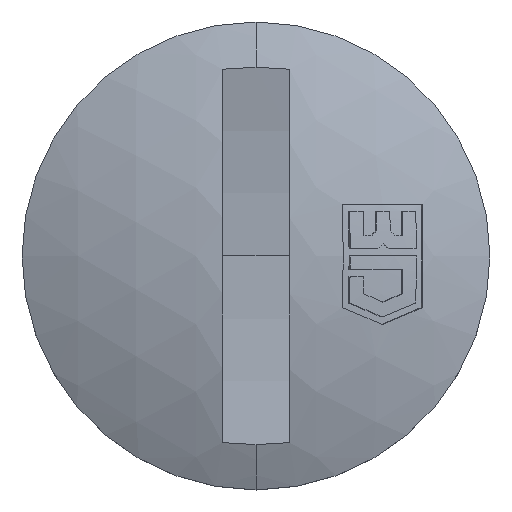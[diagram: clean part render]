
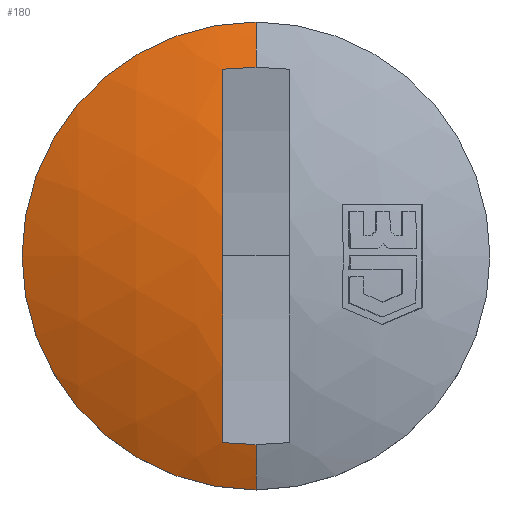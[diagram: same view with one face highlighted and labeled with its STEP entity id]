
A CAD part, top view. The second image highlights one B-rep face of the part: STEP entity #180.
In plain terms, the highlighted spherical face has radius 17 mm.
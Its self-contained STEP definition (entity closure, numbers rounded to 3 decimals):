
#26 = VERTEX_POINT ( 'NONE', #610 ) ;
#152 = ORIENTED_EDGE ( 'NONE', *, *, #153, .F. ) ;
#153 = EDGE_CURVE ( 'NONE', #228, #215, #1055, .T. ) ;
#171 = EDGE_CURVE ( 'NONE', #26, #228, #972, .T. ) ;
#180 = ADVANCED_FACE ( 'NONE', ( #979 ), #977, .T. ) ;
#181 = ORIENTED_EDGE ( 'NONE', *, *, #171, .F. ) ;
#182 = ORIENTED_EDGE ( 'NONE', *, *, #183, .F. ) ;
#183 = EDGE_CURVE ( 'NONE', #184, #26, #918, .T. ) ;
#184 = VERTEX_POINT ( 'NONE', #917 ) ;
#185 = ORIENTED_EDGE ( 'NONE', *, *, #186, .T. ) ;
#186 = EDGE_CURVE ( 'NONE', #184, #253, #919, .T. ) ;
#187 = ORIENTED_EDGE ( 'NONE', *, *, #208, .F. ) ;
#188 = ORIENTED_EDGE ( 'NONE', *, *, #260, .T. ) ;
#206 = VERTEX_POINT ( 'NONE', #912 ) ;
#208 = EDGE_CURVE ( 'NONE', #206, #253, #907, .T. ) ;
#215 = VERTEX_POINT ( 'NONE', #1082 ) ;
#228 = VERTEX_POINT ( 'NONE', #939 ) ;
#253 = VERTEX_POINT ( 'NONE', #1150 ) ;
#260 = EDGE_CURVE ( 'NONE', #206, #215, #1139, .T. ) ;
#263 = EDGE_LOOP ( 'NONE', ( #181, #182, #185, #187, #188, #152 ) ) ;
#610 = CARTESIAN_POINT ( 'NONE',  ( 0., -5.644, 7.036 ) ) ;
#907 = B_SPLINE_CURVE_WITH_KNOTS ( 'NONE', 3,
 ( #1091, #1090, #1089, #1088 ),
 .UNSPECIFIED., .F., .F.,
 ( 4, 4 ),
 ( 0.001, 0.002 ),
 .UNSPECIFIED. ) ;
#912 = CARTESIAN_POINT ( 'NONE',  ( 0., 5.644, 7.036 ) ) ;
#914 = CARTESIAN_POINT ( 'NONE',  ( -0.333, -5.644, 7.036 ) ) ;
#915 = CARTESIAN_POINT ( 'NONE',  ( -0.667, -5.625, 7.032 ) ) ;
#916 = CARTESIAN_POINT ( 'NONE',  ( -1., -5.586, 7.025 ) ) ;
#917 = CARTESIAN_POINT ( 'NONE',  ( -1., -5.586, 7.025 ) ) ;
#918 = B_SPLINE_CURVE_WITH_KNOTS ( 'NONE', 3,
 ( #916, #915, #914, #1054 ),
 .UNSPECIFIED., .F., .F.,
 ( 4, 4 ),
 ( 0., 0.001 ),
 .UNSPECIFIED. ) ;
#919 = CIRCLE ( 'NONE', #1053, 16.971 ) ;
#920 = DIRECTION ( 'NONE',  ( 0., 1., 0. ) ) ;
#921 = DIRECTION ( 'NONE',  ( 1., 0., 0. ) ) ;
#922 = CARTESIAN_POINT ( 'NONE',  ( 0., 0., -9. ) ) ;
#926 = DIRECTION ( 'NONE',  ( 0., 1., 0. ) ) ;
#927 = DIRECTION ( 'NONE',  ( 0., 0., -1. ) ) ;
#928 = CARTESIAN_POINT ( 'NONE',  ( 0., 0., 6.492 ) ) ;
#929 = AXIS2_PLACEMENT_3D ( 'NONE', #928, #927, #926 ) ;
#939 = CARTESIAN_POINT ( 'NONE',  ( 0., -7., 6.492 ) ) ;
#972 = CIRCLE ( 'NONE', #1120, 17. ) ;
#977 = SPHERICAL_SURFACE ( 'NONE', #978, 17. ) ;
#978 = AXIS2_PLACEMENT_3D ( 'NONE', #922, #921, #920 ) ;
#979 = FACE_OUTER_BOUND ( 'NONE', #263, .T. ) ;
#1050 = DIRECTION ( 'NONE',  ( 0., 0., -1. ) ) ;
#1051 = DIRECTION ( 'NONE',  ( -1., 0., 0. ) ) ;
#1052 = CARTESIAN_POINT ( 'NONE',  ( -1., 0., -9. ) ) ;
#1053 = AXIS2_PLACEMENT_3D ( 'NONE', #1052, #1051, #1050 ) ;
#1054 = CARTESIAN_POINT ( 'NONE',  ( 0., -5.644, 7.036 ) ) ;
#1055 = CIRCLE ( 'NONE', #929, 7. ) ;
#1082 = CARTESIAN_POINT ( 'NONE',  ( 0., 7., 6.492 ) ) ;
#1088 = CARTESIAN_POINT ( 'NONE',  ( -1., 5.586, 7.025 ) ) ;
#1089 = CARTESIAN_POINT ( 'NONE',  ( -0.667, 5.625, 7.032 ) ) ;
#1090 = CARTESIAN_POINT ( 'NONE',  ( -0.333, 5.644, 7.036 ) ) ;
#1091 = CARTESIAN_POINT ( 'NONE',  ( 0., 5.644, 7.036 ) ) ;
#1117 = DIRECTION ( 'NONE',  ( 0., 1., 0. ) ) ;
#1118 = DIRECTION ( 'NONE',  ( 1., 0., 0. ) ) ;
#1119 = CARTESIAN_POINT ( 'NONE',  ( 0., 0., -9. ) ) ;
#1120 = AXIS2_PLACEMENT_3D ( 'NONE', #1119, #1118, #1117 ) ;
#1135 = DIRECTION ( 'NONE',  ( 0., 0., 1. ) ) ;
#1136 = DIRECTION ( 'NONE',  ( -1., 0., 0. ) ) ;
#1137 = CARTESIAN_POINT ( 'NONE',  ( 0., 0., -9. ) ) ;
#1138 = AXIS2_PLACEMENT_3D ( 'NONE', #1137, #1136, #1135 ) ;
#1139 = CIRCLE ( 'NONE', #1138, 17. ) ;
#1150 = CARTESIAN_POINT ( 'NONE',  ( -1., 5.586, 7.025 ) ) ;
